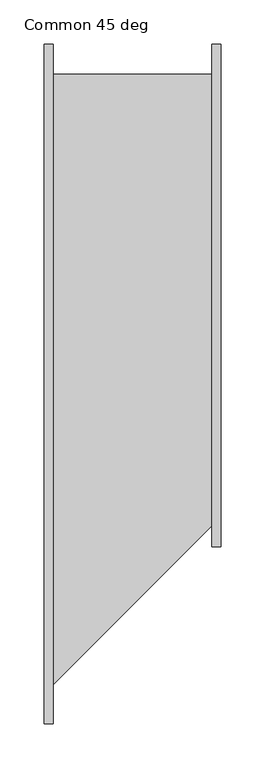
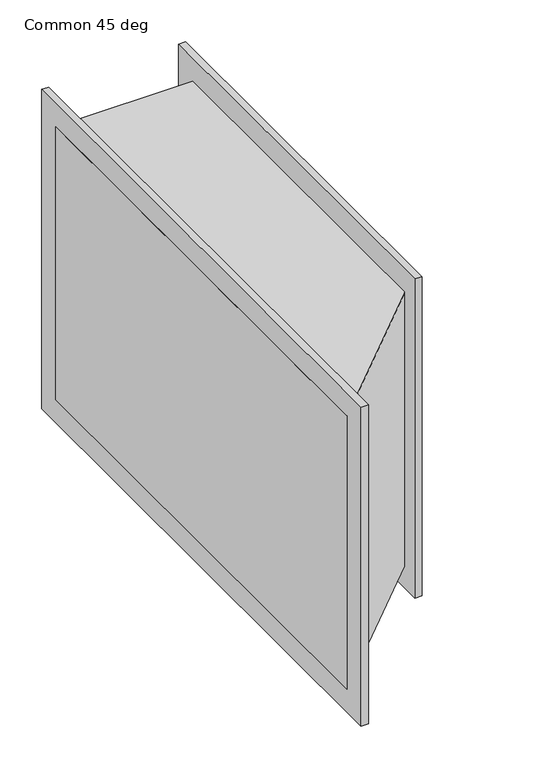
"""IFC4 building model written with IfcOpenShell, lengths in millimetres: duct fitting geometry, 041_角型置換 - フランジ - 角度 : Common 45 deg."""

from ifc_helpers import new_model, si_unit, frame, origin, place, context, project, spatial, polyline, outline, extrude, source, transform, mapped, element, save


def common_45_deg_452b6890(model_context):
    return source(origin(), model_context, "Body", "SweptSolid", [
        extrude(outline(polyline([(0.0, -350.0), (0.0, 350.0), (200.0, 350.0), (200.0, -150.0), (0.0, -350.0)])), frame((0.0, 0.0, -200.0), z_axis=(0.0, 0.0, 1.0), x_axis=(1.0, 0.0, 0.0)), (0.0, 0.0, 1.0), 400.0),
        extrude(outline(polyline([(200.0, 384.0), (200.0, -184.0), (190.0, -184.0), (190.0, 384.0), (200.0, 384.0)])), frame((0.0, 0.0, -234.0), z_axis=(0.0, 0.0, 1.0), x_axis=(1.0, 0.0, 0.0)), (0.0, 0.0, 1.0), 468.0),
        extrude(outline(polyline([(10.0, 384.0), (10.0, -384.0), (0.0, -384.0), (0.0, 384.0), (10.0, 384.0)])), frame((0.0, 0.0, -234.0), z_axis=(0.0, 0.0, 1.0), x_axis=(1.0, 0.0, 0.0)), (0.0, 0.0, 1.0), 468.0),
    ])


if __name__ == "__main__":
    model = new_model("IFC4")
    model_context = context("Model", 3, world=origin())
    ifc_project = project(units=[si_unit("LENGTHUNIT", "METRE", prefix="MILLI")], contexts=[model_context])
    site = spatial("IfcSite", under=ifc_project)
    building = spatial("IfcBuilding", under=site)
    placement = place(None, origin())
    common_45_deg_shape = common_45_deg_452b6890(model_context)
    element("IfcDuctFitting", 1, ObjectType="041_角型置換 - フランジ - 角度 : Common 45 deg", at=placement, inside=building, context=model_context, shape_type="MappedRepresentation", body=[
        mapped(common_45_deg_shape, transform((0.0, 0.0, 0.0), x_axis=(1.0, 0.0, 0.0), y_axis=(0.0, 1.0, 0.0), z_axis=(0.0, 0.0, 1.0))),
    ])
    save(model, "model.ifc")
